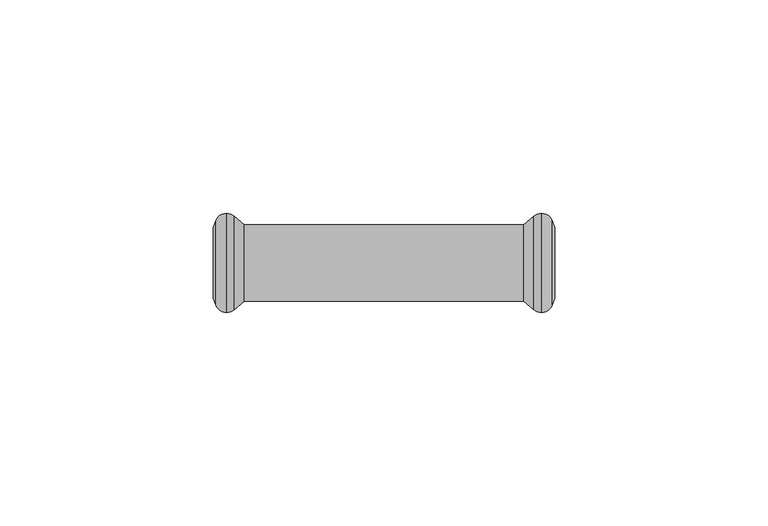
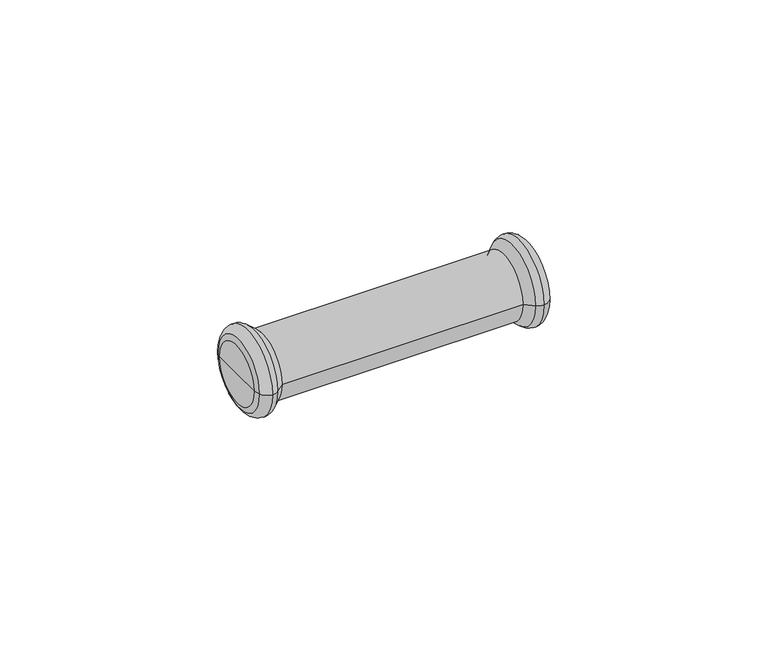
"""IFC4 building model written with IfcOpenShell, lengths in millimetres: pipe fitting geometry, KAN-therm Inox przedłużka : KAN-therm Inox przedłużka."""

from ifc_helpers import new_model, si_unit, point, frame, origin, place, context, project, spatial, polyline, circle_curve, ellipse_curve, trimmed, source, transform, mapped, element, save
from ifc_brep_helpers import plane_surface, cylinder_surface, revolved_surface, advanced_brep


def pipe_fitting_33497ba9(model_context):
    return source(origin(), model_context, "Body", "AdvancedBrep", [
        advanced_brep(
        [(35.0922627, -10.9370225, 0.0), (35.0922627, 10.9370225, 0.0), (36.8921278, 11.625, 0.0), (36.8921278, -11.625, 0.0), (32.7838092, -9.0, 0.0), (32.7838092, 9.0, 0.0), (-32.7838092, -9.0, 0.0), (-32.7838092, 9.0, 0.0), (-35.0922627, -10.9370225, 0.0), (-35.0922627, 10.9370225, 0.0), (-36.8921278, -11.625, 0.0), (-36.8921278, 11.625, 0.0), (-39.432052, -9.8484544, 0.0), (-39.432052, 9.8484544, 0.0), (-40.0, -8.2880302, 0.0), (-40.0, 8.2880302, 0.0), (-40.0, 0.0, 0.0), (40.0, -8.2880302, 0.0), (40.0, 8.2880302, 0.0), (40.0, 0.0, 0.0), (39.432052, -9.8484544, 0.0), (39.432052, 9.8484544, 0.0)],
        [
            (0, 1, circle_curve(frame((35.0922627, 0.0, 0.0), z_axis=(1.0, 0.0, 0.0), x_axis=(0.0, 1.0, 0.0)), 10.9370225)),
            (1, 2, circle_curve(frame((36.8935049, 8.9230333, 0.0), z_axis=(0.0, 0.0, -1.0), x_axis=(1.0, 0.0, 0.0)), 2.701967)),
            (2, 3, circle_curve(frame((36.8921278, 0.0, 0.0), z_axis=(-1.0, 0.0, 0.0), x_axis=(0.0, 1.0, 0.0)), 11.625)),
            (3, 0, circle_curve(frame((36.8935049, -8.9230333, 0.0), z_axis=(0.0, 0.0, -1.0), x_axis=(1.0, 0.0, 0.0)), 2.701967)),
            (1, 0, circle_curve(frame((35.0922627, 0.0, 0.0), z_axis=(1.0, 0.0, 0.0), x_axis=(0.0, 1.0, 0.0)), 10.9370225)),
            (3, 2, circle_curve(frame((36.8921278, 0.0, 0.0), z_axis=(-1.0, 0.0, 0.0), x_axis=(0.0, 1.0, 0.0)), 11.625)),
            (4, 5, circle_curve(frame((32.7838092, 0.0, 0.0), z_axis=(1.0, 0.0, 0.0), x_axis=(0.0, 1.0, 0.0)), 9.0)),
            (5, 1),
            (0, 4),
            (5, 4, circle_curve(frame((32.7838092, 0.0, 0.0), z_axis=(1.0, 0.0, 0.0), x_axis=(0.0, 1.0, 0.0)), 9.0)),
            (6, 7, circle_curve(frame((-32.7838092, 0.0, 0.0), z_axis=(1.0, 0.0, 0.0), x_axis=(0.0, 1.0, 0.0)), 9.0)),
            (7, 5),
            (4, 6),
            (7, 6, circle_curve(frame((-32.7838092, 0.0, 0.0), z_axis=(1.0, 0.0, 0.0), x_axis=(0.0, 1.0, 0.0)), 9.0)),
            (8, 9, circle_curve(frame((-35.0922627, 0.0, 0.0), z_axis=(1.0, 0.0, 0.0), x_axis=(0.0, 1.0, 0.0)), 10.9370225)),
            (9, 7),
            (6, 8),
            (9, 8, circle_curve(frame((-35.0922627, 0.0, 0.0), z_axis=(1.0, 0.0, 0.0), x_axis=(0.0, 1.0, 0.0)), 10.9370225)),
            (10, 11, circle_curve(frame((-36.8921278, 0.0, 0.0), z_axis=(1.0, 0.0, 0.0), x_axis=(0.0, 1.0, 0.0)), 11.625)),
            (11, 9, circle_curve(frame((-36.8935049, 8.9230333, 0.0), z_axis=(0.0, 0.0, -1.0), x_axis=(1.0, 0.0, 0.0)), 2.701967)),
            (8, 10, circle_curve(frame((-36.8935049, -8.9230333, 0.0), z_axis=(0.0, 0.0, -1.0), x_axis=(1.0, 0.0, 0.0)), 2.701967)),
            (11, 10, circle_curve(frame((-36.8921278, 0.0, 0.0), z_axis=(1.0, 0.0, 0.0), x_axis=(0.0, 1.0, 0.0)), 11.625)),
            (12, 13, circle_curve(frame((-39.432052, 0.0, 0.0), z_axis=(1.0, 0.0, 0.0), x_axis=(0.0, 1.0, 0.0)), 9.8484544)),
            (13, 11, circle_curve(frame((-36.89488, 8.9249993, 0.0), z_axis=(0.0, 0.0, -1.0), x_axis=(1.0, 0.0, 0.0)), 2.7000021)),
            (10, 12, circle_curve(frame((-36.89488, -8.9249993, 0.0), z_axis=(0.0, 0.0, -1.0), x_axis=(1.0, 0.0, 0.0)), 2.7000021)),
            (13, 12, circle_curve(frame((-39.432052, 0.0, 0.0), z_axis=(1.0, 0.0, 0.0), x_axis=(0.0, 1.0, 0.0)), 9.8484544)),
            (14, 15, circle_curve(frame((-40.0, 0.0, 0.0), z_axis=(1.0, 0.0, 0.0), x_axis=(0.0, 1.0, 0.0)), 8.2880302)),
            (15, 13),
            (12, 14),
            (15, 14, circle_curve(frame((-40.0, 0.0, 0.0), z_axis=(1.0, 0.0, 0.0), x_axis=(0.0, 1.0, 0.0)), 8.2880302)),
            (16, 15),
            (14, 16),
            (17, 18, circle_curve(frame((40.0, 0.0, 0.0), z_axis=(1.0, 0.0, 0.0), x_axis=(0.0, 1.0, 0.0)), 8.2880302)),
            (18, 19),
            (19, 17),
            (18, 17, circle_curve(frame((40.0, 0.0, 0.0), z_axis=(1.0, 0.0, 0.0), x_axis=(0.0, 1.0, 0.0)), 8.2880302)),
            (20, 21, circle_curve(frame((39.432052, 0.0, 0.0), z_axis=(1.0, 0.0, 0.0), x_axis=(0.0, 1.0, 0.0)), 9.8484544)),
            (21, 18),
            (17, 20),
            (21, 20, circle_curve(frame((39.432052, 0.0, 0.0), z_axis=(1.0, 0.0, 0.0), x_axis=(0.0, 1.0, 0.0)), 9.8484544)),
            (2, 21, circle_curve(frame((36.89488, 8.9249993, 0.0), z_axis=(0.0, 0.0, -1.0), x_axis=(1.0, 0.0, 0.0)), 2.7000021)),
            (20, 3, circle_curve(frame((36.89488, -8.9249993, 0.0), z_axis=(0.0, 0.0, -1.0), x_axis=(1.0, 0.0, 0.0)), 2.7000021)),
        ],
        [
            revolved_surface(trimmed(ellipse_curve(frame((36.8935049, 8.9230333, 0.0), z_axis=(0.0, 0.0, 1.0), x_axis=(1.0, 0.0, 0.0)), 2.701967, 2.701967), [point((36.8921278, 11.625, 0.0))], [point((35.0922627, 10.9370225, 0.0))], True, "CARTESIAN"), (1353.742668, 0.0, 0.0), (-1.0, 0.0, 0.0)),
            revolved_surface(polyline([(35.0922627, 10.9370225, 0.0), (32.7838092, 9.0, 0.0)]), (1353.742668, 0.0, 0.0), (-1.0, 0.0, 0.0)),
            cylinder_surface(frame((1353.742668, 0.0, 0.0), z_axis=(-1.0, 0.0, 0.0), x_axis=(0.0, 1.0, 0.0)), 9.0),
            revolved_surface(polyline([(-32.7838092, 9.0, 0.0), (-35.0922627, 10.9370225, 0.0)]), (1353.742668, 0.0, 0.0), (-1.0, 0.0, 0.0)),
            revolved_surface(trimmed(ellipse_curve(frame((-36.8935049, 8.9230333, 0.0), z_axis=(0.0, 0.0, 1.0), x_axis=(1.0, 0.0, 0.0)), 2.701967, 2.701967), [point((-35.0922627, 10.9370225, 0.0))], [point((-36.8921278, 11.625, 0.0))], True, "CARTESIAN"), (1353.742668, 0.0, 0.0), (-1.0, 0.0, 0.0)),
            revolved_surface(trimmed(ellipse_curve(frame((-36.89488, 8.9249993, 0.0), z_axis=(0.0, 0.0, 1.0), x_axis=(1.0, 0.0, 0.0)), 2.7000021, 2.7000021), [point((-36.8921278, 11.625, 0.0))], [point((-39.432052, 9.8484544, 0.0))], True, "CARTESIAN"), (1353.742668, 0.0, 0.0), (-1.0, 0.0, 0.0)),
            revolved_surface(polyline([(-39.432052, 9.8484544, 0.0), (-40.0, 8.2880302, 0.0)]), (1353.742668, 0.0, 0.0), (-1.0, 0.0, 0.0)),
            plane_surface(frame((-40.0, 0.0, 0.0), z_axis=(-1.0, 0.0, 0.0), x_axis=(0.0, 1.0, 0.0))),
            plane_surface(frame((40.0, 0.0, 0.0), z_axis=(1.0, 0.0, 0.0), x_axis=(0.0, 1.0, 0.0))),
            revolved_surface(polyline([(40.0, 8.2880302, 0.0), (39.432052, 9.8484544, 0.0)]), (1353.742668, 0.0, 0.0), (-1.0, 0.0, 0.0)),
            revolved_surface(trimmed(ellipse_curve(frame((36.89488, 8.9249993, 0.0), z_axis=(0.0, 0.0, 1.0), x_axis=(1.0, 0.0, 0.0)), 2.7000021, 2.7000021), [point((39.432052, 9.8484544, 0.0))], [point((36.8921278, 11.625, 0.0))], True, "CARTESIAN"), (1353.742668, 0.0, 0.0), (-1.0, 0.0, 0.0)),
        ],
        [
            (0, [[1, 2, 3, 4]]),
            (0, [[5, -4, 6, -2]]),
            (1, [[7, 8, -1, 9]]),
            (1, [[10, -9, -5, -8]]),
            (2, [[11, 12, -7, 13]]),
            (2, [[14, -13, -10, -12]]),
            (3, [[15, 16, -11, 17]]),
            (3, [[18, -17, -14, -16]]),
            (4, [[19, 20, -15, 21]]),
            (4, [[22, -21, -18, -20]]),
            (5, [[23, 24, -19, 25]]),
            (5, [[26, -25, -22, -24]]),
            (6, [[27, 28, -23, 29]]),
            (6, [[30, -29, -26, -28]]),
            (7, [[31, -27, 32]]),
            (7, [[-32, -30, -31]]),
            (8, [[33, 34, 35]]),
            (8, [[36, -35, -34]]),
            (9, [[37, 38, -33, 39]]),
            (9, [[40, -39, -36, -38]]),
            (10, [[-3, 41, -37, 42]]),
            (10, [[-6, -42, -40, -41]]),
        ],
    ),
    ])


if __name__ == "__main__":
    model = new_model("IFC4")
    model_context = context("Model", 3, world=origin())
    ifc_project = project(units=[si_unit("LENGTHUNIT", "METRE", prefix="MILLI")], contexts=[model_context])
    site = spatial("IfcSite", under=ifc_project)
    building = spatial("IfcBuilding", under=site)
    placement = place(None, origin())
    pipe_fitting_shape = pipe_fitting_33497ba9(model_context)
    element("IfcPipeFitting", 1, ObjectType="KAN-therm Inox przedłużka : KAN-therm Inox przedłużka", at=placement, inside=building, context=model_context, shape_type="MappedRepresentation", body=[
        mapped(pipe_fitting_shape, transform((0.0, 0.0, 0.0), x_axis=(1.0, 0.0, 0.0), y_axis=(0.0, 1.0, 0.0), z_axis=(0.0, 0.0, 1.0))),
    ])
    save(model, "model.ifc")
